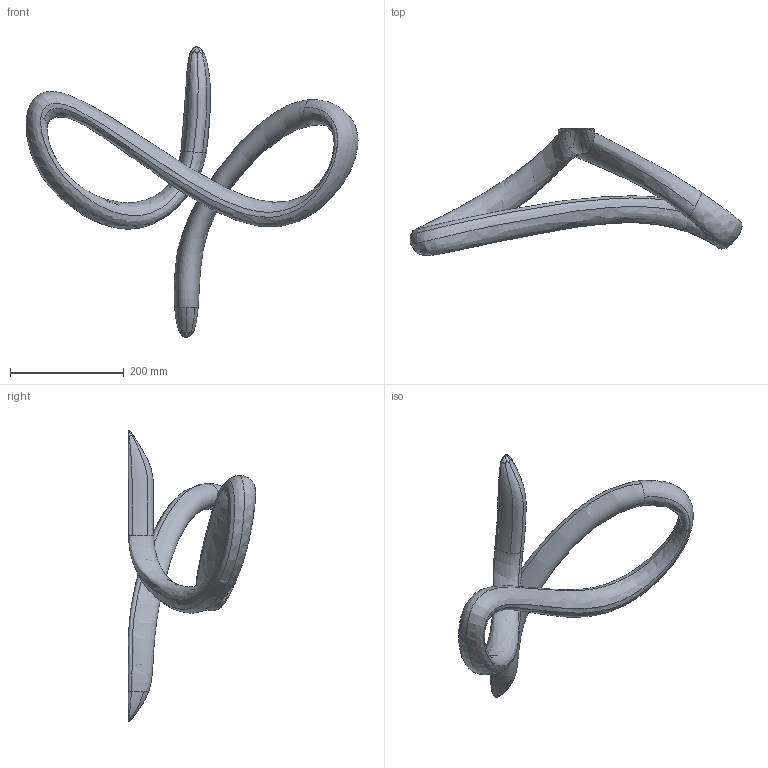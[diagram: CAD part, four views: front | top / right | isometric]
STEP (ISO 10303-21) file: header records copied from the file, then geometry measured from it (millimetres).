
FILE_DESCRIPTION (( 'STEP AP214' ), '1' );
FILE_NAME ('VERTIGO_510mm.STEP', '2017-11-28T09:50:34', ( '' ), ( '' ), 'SwSTEP 2.0', 'SolidWorks 2016', '' );
FILE_SCHEMA (( 'AUTOMOTIVE_DESIGN' ));
Length unit declared in the file: millimetre
Products named in the file (2): VERTIGO_510mm; Imported1
Assembly tree (1 placements, depth 2):
  VERTIGO_510mm
    Imported1
Bounding box: 584.45 x 224.11 x 512.3 mm (x, y, z)
Volume: 2940868.5 mm3; surface area: 278298.1 mm2
Topology: 1 solids, 1 shells, 39 faces, 97 edges, 60 vertices
Faces by surface type: bspline 39
Entity records: 61569 total; most frequent: CARTESIAN_POINT 60895, ORIENTED_EDGE 194, B_SPLINE_CURVE_WITH_KNOTS 97, EDGE_CURVE 97, VERTEX_POINT 60, EDGE_LOOP 39, B_SPLINE_SURFACE_WITH_KNOTS 39, ADVANCED_FACE 39
